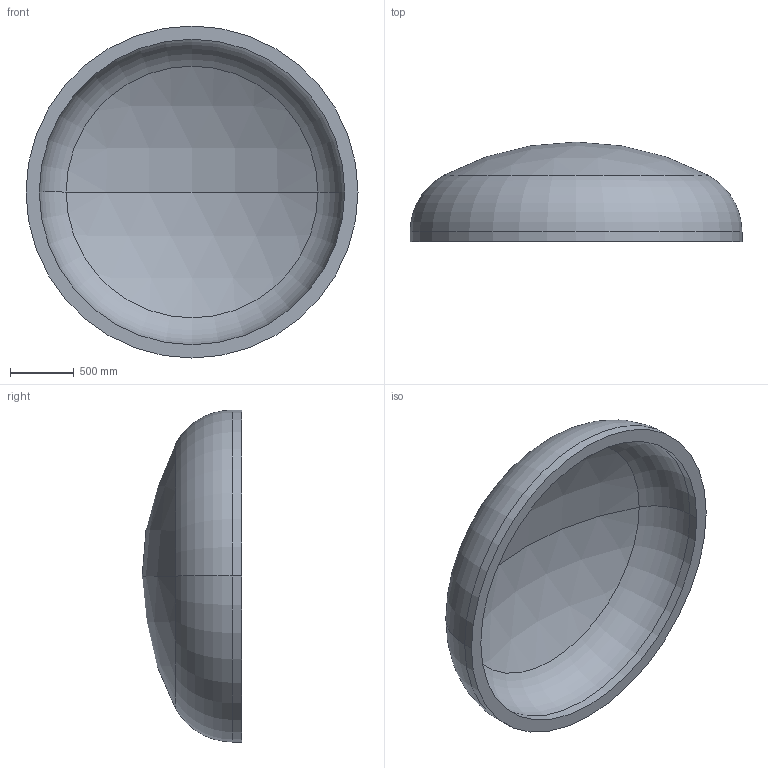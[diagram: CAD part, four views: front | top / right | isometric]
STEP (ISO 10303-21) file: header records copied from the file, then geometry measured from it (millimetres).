
FILE_DESCRIPTION (( 'STEP AP203' ), '1' );
FILE_NAME ('DIN 28013 Korbbogenform_-_Boden DIN 28013 - 2600 x 75 - I - s=104.step', '2016-07-01T16:32:23', ( '' ), ( '' ), 'SwSTEP 2.0', 'SolidWorks 2013', '' );
FILE_SCHEMA (( 'CONFIG_CONTROL_DESIGN' ));
Length unit declared in the file: millimetre
Products named in the file (1): DIN 28013 Korbbogenform_-_Boden DIN 28013 - 2600 x 75 - I - s=104
Bounding box: 2600 x 779.55 x 2600 mm (x, y, z)
Volume: 787133214.5 mm3; surface area: 15975332.7 mm2
Topology: 1 solids, 1 shells, 13 faces, 24 edges, 14 vertices
Faces by surface type: torus 4, cylinder 4, sphere 4, plane 1
Entity records: 407 total; most frequent: DIRECTION 72, CARTESIAN_POINT 52, ORIENTED_EDGE 48, AXIS2_PLACEMENT_3D 34, EDGE_CURVE 24, CIRCLE 20, VERTEX_POINT 14, EDGE_LOOP 14
